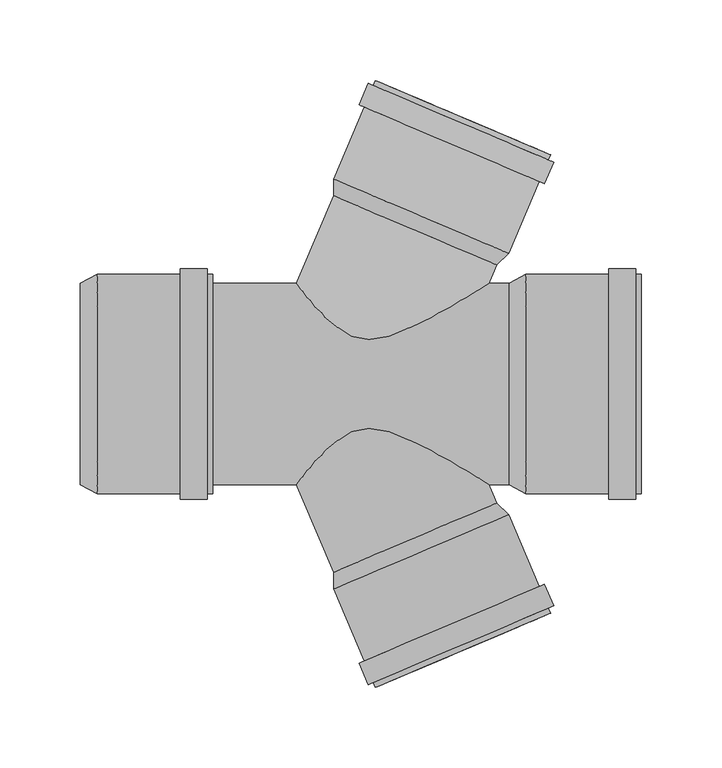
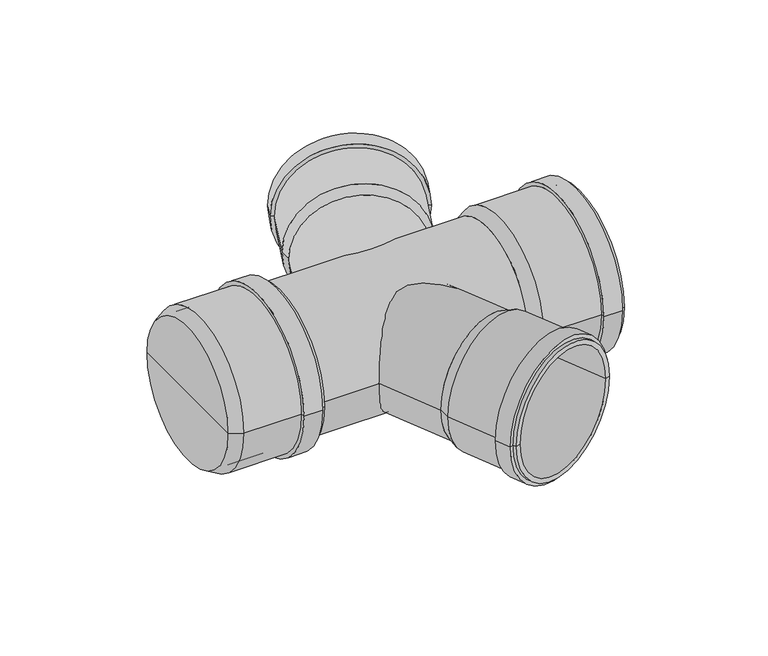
"""IFC4 building model written with IfcOpenShell, lengths in millimetres: pipe fitting geometry, pf_HTDA : pf_HTDA."""

from ifc_helpers import new_model, si_unit, point, frame, origin, origin_2d, place, context, project, spatial, polyline, circle_curve, trimmed, segment, composite_curve, outline, extrude, source, transform, mapped, element, save
from ifc_brep_helpers import plane_surface, cylinder_surface, revolved_surface, advanced_brep


def pipe_fitting_bba1077c(model_context):
    return source(origin(), model_context, "Body", "SolidModel", [
        advanced_brep(
        [(91.146585, 73.9661412, 0.0), (-10.1089489, 116.9465654, 0.0), (-10.1710731, 127.2933591, 0.0), (98.6326006, 81.1089397, 0.0), (40.518818, 95.4563533, 0.0), (124.6162206, 142.3225125, 0.0), (15.812547, 188.5069319, 0.0), (19.5866168, 186.9049342, 0.0), (120.8421507, 143.9245101, 0.0), (123.2877348, 139.192796, 0.0), (14.4840611, 185.3772154, 0.0), (126.4174513, 137.8643101, 0.0), (11.3543446, 186.7057012, 0.0), (120.7518499, 124.5169898, 0.0), (5.6887432, 173.3583808, 0.0), (117.6221334, 125.8454756, 0.0), (8.8184598, 172.029895, 0.0), (94.8585307, 82.7109373, 0.0), (-6.3970032, 125.6913615, 0.0), (44.2307637, 104.2011494, 0.0)],
        [
            (0, 1, circle_curve(frame((40.518818, 95.4563533, 0.0), z_axis=(0.39073112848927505, 0.9205048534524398, 0.0), x_axis=(-0.9205048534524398, 0.39073112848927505, 0.0)), 55.0)),
            (1, 2),
            (2, 3, circle_curve(frame((44.2307637, 104.2011494, 0.0), z_axis=(-0.39073112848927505, -0.9205048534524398, 0.0), x_axis=(-0.9205048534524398, 0.39073112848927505, 0.0)), 59.1)),
            (3, 0),
            (1, 0, circle_curve(frame((40.518818, 95.4563533, 0.0), z_axis=(0.39073112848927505, 0.9205048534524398, 0.0), x_axis=(-0.9205048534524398, 0.39073112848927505, 0.0)), 55.0)),
            (3, 2, circle_curve(frame((44.2307637, 104.2011494, 0.0), z_axis=(-0.39073112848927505, -0.9205048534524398, 0.0), x_axis=(-0.9205048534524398, 0.39073112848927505, 0.0)), 59.1)),
            (4, 1),
            (0, 4),
            (5, 6, circle_curve(frame((70.2143838, 165.4147222, 0.0), z_axis=(0.39073112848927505, 0.9205048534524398, 0.0), x_axis=(-0.9205048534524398, 0.39073112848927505, 0.0)), 59.1)),
            (6, 7),
            (7, 8, circle_curve(frame((70.2143838, 165.4147222, 0.0), z_axis=(-0.39073112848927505, -0.9205048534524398, 0.0), x_axis=(-0.9205048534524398, 0.39073112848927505, 0.0)), 55.0)),
            (8, 5),
            (6, 5, circle_curve(frame((70.2143838, 165.4147222, 0.0), z_axis=(0.39073112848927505, 0.9205048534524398, 0.0), x_axis=(-0.9205048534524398, 0.39073112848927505, 0.0)), 59.1)),
            (8, 7, circle_curve(frame((70.2143838, 165.4147222, 0.0), z_axis=(-0.39073112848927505, -0.9205048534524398, 0.0), x_axis=(-0.9205048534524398, 0.39073112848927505, 0.0)), 55.0)),
            (9, 10, circle_curve(frame((68.885898, 162.2850057, 0.0), z_axis=(0.39073112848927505, 0.9205048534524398, 0.0), x_axis=(-0.9205048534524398, 0.39073112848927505, 0.0)), 59.1)),
            (10, 6),
            (5, 9),
            (10, 9, circle_curve(frame((68.885898, 162.2850057, 0.0), z_axis=(0.39073112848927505, 0.9205048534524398, 0.0), x_axis=(-0.9205048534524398, 0.39073112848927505, 0.0)), 59.1)),
            (11, 12, circle_curve(frame((68.885898, 162.2850057, 0.0), z_axis=(0.39073112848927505, 0.9205048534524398, 0.0), x_axis=(-0.9205048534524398, 0.39073112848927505, 0.0)), 62.5)),
            (12, 10),
            (9, 11),
            (12, 11, circle_curve(frame((68.885898, 162.2850057, 0.0), z_axis=(0.39073112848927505, 0.9205048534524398, 0.0), x_axis=(-0.9205048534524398, 0.39073112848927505, 0.0)), 62.5)),
            (13, 14, circle_curve(frame((63.2202966, 148.9376853, 0.0), z_axis=(0.39073112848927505, 0.9205048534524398, 0.0), x_axis=(-0.9205048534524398, 0.39073112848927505, 0.0)), 62.5)),
            (14, 12),
            (11, 13),
            (14, 13, circle_curve(frame((63.2202966, 148.9376853, 0.0), z_axis=(0.39073112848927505, 0.9205048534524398, 0.0), x_axis=(-0.9205048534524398, 0.39073112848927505, 0.0)), 62.5)),
            (15, 16, circle_curve(frame((63.2202966, 148.9376853, 0.0), z_axis=(0.39073112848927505, 0.9205048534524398, 0.0), x_axis=(-0.9205048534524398, 0.39073112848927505, 0.0)), 59.1)),
            (16, 14),
            (13, 15),
            (16, 15, circle_curve(frame((63.2202966, 148.9376853, 0.0), z_axis=(0.39073112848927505, 0.9205048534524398, 0.0), x_axis=(-0.9205048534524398, 0.39073112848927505, 0.0)), 59.1)),
            (2, 16),
            (15, 3),
            (17, 18, circle_curve(frame((44.2307637, 104.2011494, 0.0), z_axis=(0.39073112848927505, 0.9205048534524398, 0.0), x_axis=(-0.9205048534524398, 0.39073112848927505, 0.0)), 55.0)),
            (18, 19),
            (19, 17),
            (18, 17, circle_curve(frame((44.2307637, 104.2011494, 0.0), z_axis=(0.39073112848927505, 0.9205048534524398, 0.0), x_axis=(-0.9205048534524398, 0.39073112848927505, 0.0)), 55.0)),
            (7, 18),
            (17, 8),
        ],
        [
            revolved_surface(polyline([(-10.1710731, 127.2933591, 0.0), (-10.1089489, 116.9465654, 0.0)]), (40.518818, 95.4563533, 0.0), (-0.39073112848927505, -0.9205048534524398, 0.0)),
            plane_surface(frame((40.518818, 95.4563533, 0.0), z_axis=(-0.39073112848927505, -0.9205048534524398, 0.0), x_axis=(-0.9205048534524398, 0.39073112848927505, 0.0))),
            plane_surface(frame((70.2143838, 165.4147222, 0.0), z_axis=(0.39073112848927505, 0.9205048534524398, 0.0), x_axis=(-0.9205048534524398, 0.39073112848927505, 0.0))),
            cylinder_surface(frame((40.518818, 95.4563533, 0.0), z_axis=(-0.39073112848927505, -0.9205048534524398, 0.0), x_axis=(-0.9205048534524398, 0.39073112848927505, 0.0)), 59.1),
            plane_surface(frame((68.885898, 162.2850057, 0.0), z_axis=(0.39073112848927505, 0.9205048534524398, 0.0), x_axis=(-0.9205048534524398, 0.39073112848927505, 0.0))),
            cylinder_surface(frame((40.518818, 95.4563533, 0.0), z_axis=(-0.39073112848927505, -0.9205048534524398, 0.0), x_axis=(-0.9205048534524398, 0.39073112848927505, 0.0)), 62.5),
            plane_surface(frame((63.2202966, 148.9376853, 0.0), z_axis=(-0.39073112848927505, -0.9205048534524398, 0.0), x_axis=(-0.9205048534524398, 0.39073112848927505, 0.0))),
            plane_surface(frame((44.2307637, 104.2011494, 0.0), z_axis=(0.39073112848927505, 0.9205048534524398, 0.0), x_axis=(-0.9205048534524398, 0.39073112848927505, 0.0))),
            revolved_surface(polyline([(-6.397003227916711, 125.69136145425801, 0.0), (19.586616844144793, 186.90493427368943, 0.0)]), (40.518818, 95.4563533, 0.0), (-0.39073112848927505, -0.9205048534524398, 0.0)),
        ],
        [
            (0, [[1, 2, 3, 4]]),
            (0, [[5, -4, 6, -2]]),
            (1, [[7, -1, 8]]),
            (1, [[-8, -5, -7]]),
            (2, [[9, 10, 11, 12]]),
            (2, [[13, -12, 14, -10]]),
            (3, [[15, 16, -9, 17]]),
            (3, [[18, -17, -13, -16]]),
            (4, [[19, 20, -15, 21]]),
            (4, [[22, -21, -18, -20]]),
            (5, [[23, 24, -19, 25]]),
            (5, [[26, -25, -22, -24]]),
            (6, [[27, 28, -23, 29]]),
            (6, [[30, -29, -26, -28]]),
            (3, [[-3, 31, -27, 32]]),
            (3, [[-6, -32, -30, -31]]),
            (7, [[33, 34, 35]]),
            (7, [[36, -35, -34]]),
            (8, [[-11, 37, -33, 38]]),
            (8, [[-14, -38, -36, -37]]),
        ],
    ),
        advanced_brep(
        [(-10.1089489, -116.9465654, 0.0), (91.146585, -73.9661412, 0.0), (98.6326006, -81.1089397, 0.0), (-10.1710731, -127.2933591, 0.0), (40.518818, -95.4563533, 0.0), (15.812547, -188.5069319, 0.0), (124.6162206, -142.3225125, 0.0), (120.8421507, -143.9245101, 0.0), (19.5866168, -186.9049342, 0.0), (14.4840611, -185.3772154, 0.0), (123.2877348, -139.192796, 0.0), (11.3543446, -186.7057012, 0.0), (126.4174513, -137.8643101, 0.0), (5.6887432, -173.3583808, 0.0), (120.7518499, -124.5169898, 0.0), (8.8184598, -172.029895, 0.0), (117.6221334, -125.8454756, 0.0), (-6.3970032, -125.6913615, 0.0), (94.8585307, -82.7109373, 0.0), (44.2307637, -104.2011494, 0.0)],
        [
            (0, 1, circle_curve(frame((40.518818, -95.4563533, 0.0), z_axis=(0.3907311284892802, -0.9205048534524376, 0.0), x_axis=(0.9205048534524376, 0.3907311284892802, 0.0)), 55.0)),
            (1, 2),
            (2, 3, circle_curve(frame((44.2307637, -104.2011494, 0.0), z_axis=(-0.3907311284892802, 0.9205048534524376, 0.0), x_axis=(0.9205048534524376, 0.3907311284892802, 0.0)), 59.1)),
            (3, 0),
            (1, 0, circle_curve(frame((40.518818, -95.4563533, 0.0), z_axis=(0.3907311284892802, -0.9205048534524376, 0.0), x_axis=(0.9205048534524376, 0.3907311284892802, 0.0)), 55.0)),
            (3, 2, circle_curve(frame((44.2307637, -104.2011494, 0.0), z_axis=(-0.3907311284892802, 0.9205048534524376, 0.0), x_axis=(0.9205048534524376, 0.3907311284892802, 0.0)), 59.1)),
            (4, 1),
            (0, 4),
            (5, 6, circle_curve(frame((70.2143838, -165.4147222, 0.0), z_axis=(0.3907311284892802, -0.9205048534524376, 0.0), x_axis=(0.9205048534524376, 0.3907311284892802, 0.0)), 59.1)),
            (6, 7),
            (7, 8, circle_curve(frame((70.2143838, -165.4147222, 0.0), z_axis=(-0.3907311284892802, 0.9205048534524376, 0.0), x_axis=(0.9205048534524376, 0.3907311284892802, 0.0)), 55.0)),
            (8, 5),
            (6, 5, circle_curve(frame((70.2143838, -165.4147222, 0.0), z_axis=(0.3907311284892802, -0.9205048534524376, 0.0), x_axis=(0.9205048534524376, 0.3907311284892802, 0.0)), 59.1)),
            (8, 7, circle_curve(frame((70.2143838, -165.4147222, 0.0), z_axis=(-0.3907311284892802, 0.9205048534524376, 0.0), x_axis=(0.9205048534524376, 0.3907311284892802, 0.0)), 55.0)),
            (9, 10, circle_curve(frame((68.885898, -162.2850057, 0.0), z_axis=(0.3907311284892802, -0.9205048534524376, 0.0), x_axis=(0.9205048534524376, 0.3907311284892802, 0.0)), 59.1)),
            (10, 6),
            (5, 9),
            (10, 9, circle_curve(frame((68.885898, -162.2850057, 0.0), z_axis=(0.3907311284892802, -0.9205048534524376, 0.0), x_axis=(0.9205048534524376, 0.3907311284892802, 0.0)), 59.1)),
            (11, 12, circle_curve(frame((68.885898, -162.2850057, 0.0), z_axis=(0.3907311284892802, -0.9205048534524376, 0.0), x_axis=(0.9205048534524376, 0.3907311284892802, 0.0)), 62.5)),
            (12, 10),
            (9, 11),
            (12, 11, circle_curve(frame((68.885898, -162.2850057, 0.0), z_axis=(0.3907311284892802, -0.9205048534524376, 0.0), x_axis=(0.9205048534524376, 0.3907311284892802, 0.0)), 62.5)),
            (13, 14, circle_curve(frame((63.2202966, -148.9376853, 0.0), z_axis=(0.3907311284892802, -0.9205048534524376, 0.0), x_axis=(0.9205048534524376, 0.3907311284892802, 0.0)), 62.5)),
            (14, 12),
            (11, 13),
            (14, 13, circle_curve(frame((63.2202966, -148.9376853, 0.0), z_axis=(0.3907311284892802, -0.9205048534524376, 0.0), x_axis=(0.9205048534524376, 0.3907311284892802, 0.0)), 62.5)),
            (15, 16, circle_curve(frame((63.2202966, -148.9376853, 0.0), z_axis=(0.3907311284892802, -0.9205048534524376, 0.0), x_axis=(0.9205048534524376, 0.3907311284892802, 0.0)), 59.1)),
            (16, 14),
            (13, 15),
            (16, 15, circle_curve(frame((63.2202966, -148.9376853, 0.0), z_axis=(0.3907311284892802, -0.9205048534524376, 0.0), x_axis=(0.9205048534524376, 0.3907311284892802, 0.0)), 59.1)),
            (2, 16),
            (15, 3),
            (17, 18, circle_curve(frame((44.2307637, -104.2011494, 0.0), z_axis=(0.3907311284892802, -0.9205048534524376, 0.0), x_axis=(0.9205048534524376, 0.3907311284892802, 0.0)), 55.0)),
            (18, 19),
            (19, 17),
            (18, 17, circle_curve(frame((44.2307637, -104.2011494, 0.0), z_axis=(0.3907311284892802, -0.9205048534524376, 0.0), x_axis=(0.9205048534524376, 0.3907311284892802, 0.0)), 55.0)),
            (7, 18),
            (17, 8),
        ],
        [
            revolved_surface(polyline([(98.6326006, -81.1089397, 0.0), (91.146585, -73.9661412, 0.0)]), (40.518818, -95.4563533, 0.0), (-0.3907311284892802, 0.9205048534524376, 0.0)),
            plane_surface(frame((40.518818, -95.4563533, 0.0), z_axis=(-0.3907311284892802, 0.9205048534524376, 0.0), x_axis=(0.9205048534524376, 0.3907311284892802, 0.0))),
            plane_surface(frame((70.2143838, -165.4147222, 0.0), z_axis=(0.3907311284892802, -0.9205048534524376, 0.0), x_axis=(0.9205048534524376, 0.3907311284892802, 0.0))),
            cylinder_surface(frame((40.518818, -95.4563533, 0.0), z_axis=(-0.3907311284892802, 0.9205048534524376, 0.0), x_axis=(0.9205048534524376, 0.3907311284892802, 0.0)), 59.1),
            plane_surface(frame((68.885898, -162.2850057, 0.0), z_axis=(0.3907311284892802, -0.9205048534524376, 0.0), x_axis=(0.9205048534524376, 0.3907311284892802, 0.0))),
            cylinder_surface(frame((40.518818, -95.4563533, 0.0), z_axis=(-0.3907311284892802, 0.9205048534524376, 0.0), x_axis=(0.9205048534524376, 0.3907311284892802, 0.0)), 62.5),
            plane_surface(frame((63.2202966, -148.9376853, 0.0), z_axis=(-0.3907311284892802, 0.9205048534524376, 0.0), x_axis=(0.9205048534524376, 0.3907311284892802, 0.0))),
            plane_surface(frame((44.2307637, -104.2011494, 0.0), z_axis=(0.3907311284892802, -0.9205048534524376, 0.0), x_axis=(0.9205048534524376, 0.3907311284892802, 0.0))),
            revolved_surface(polyline([(94.85853065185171, -82.71093732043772, 0.0), (120.84215072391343, -143.9245101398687, 0.0)]), (40.518818, -95.4563533, 0.0), (-0.3907311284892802, 0.9205048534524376, 0.0)),
        ],
        [
            (0, [[1, 2, 3, 4]]),
            (0, [[5, -4, 6, -2]]),
            (1, [[7, -1, 8]]),
            (1, [[-8, -5, -7]]),
            (2, [[9, 10, 11, 12]]),
            (2, [[13, -12, 14, -10]]),
            (3, [[15, 16, -9, 17]]),
            (3, [[18, -17, -13, -16]]),
            (4, [[19, 20, -15, 21]]),
            (4, [[22, -21, -18, -20]]),
            (5, [[23, 24, -19, 25]]),
            (5, [[26, -25, -22, -24]]),
            (6, [[27, 28, -23, 29]]),
            (6, [[30, -29, -26, -28]]),
            (3, [[-3, 31, -27, 32]]),
            (3, [[-6, -32, -30, -31]]),
            (7, [[33, 34, 35]]),
            (7, [[36, -35, -34]]),
            (8, [[-11, 37, -33, 38]]),
            (8, [[-14, -38, -36, -37]]),
        ],
    ),
        advanced_brep(
        [(98.8, -62.5, 0.0), (98.8, 62.5, 0.0), (109.3, 68.1, 0.0), (109.3, -68.1, 0.0), (98.8, 0.0, 0.0), (180.8, -68.1, 0.0), (180.8, 68.1, 0.0), (180.8, 62.5, 0.0), (180.8, -62.5, 0.0), (177.4, -68.1, 0.0), (177.4, 68.1, 0.0), (177.4, -71.5, 0.0), (177.4, 71.5, 0.0), (160.8, -71.5, 0.0), (160.8, 71.5, 0.0), (160.8, -68.1, 0.0), (160.8, 68.1, 0.0), (109.3, -62.5, 0.0), (109.3, 62.5, 0.0), (109.3, 0.0, 0.0)],
        [
            (0, 1, circle_curve(frame((98.8, 0.0, 0.0), z_axis=(1.0, 0.0, 0.0), x_axis=(0.0, 1.0, 0.0)), 62.5)),
            (1, 2),
            (2, 3, circle_curve(frame((109.3, 0.0, 0.0), z_axis=(-1.0, 0.0, 0.0), x_axis=(0.0, 1.0, 0.0)), 68.1)),
            (3, 0),
            (1, 0, circle_curve(frame((98.8, 0.0, 0.0), z_axis=(1.0, 0.0, 0.0), x_axis=(0.0, 1.0, 0.0)), 62.5)),
            (3, 2, circle_curve(frame((109.3, 0.0, 0.0), z_axis=(-1.0, 0.0, 0.0), x_axis=(0.0, 1.0, 0.0)), 68.1)),
            (4, 1),
            (0, 4),
            (5, 6, circle_curve(frame((180.8, 0.0, 0.0), z_axis=(1.0, 0.0, 0.0), x_axis=(0.0, 1.0, 0.0)), 68.1)),
            (6, 7),
            (7, 8, circle_curve(frame((180.8, 0.0, 0.0), z_axis=(-1.0, 0.0, 0.0), x_axis=(0.0, 1.0, 0.0)), 62.5)),
            (8, 5),
            (6, 5, circle_curve(frame((180.8, 0.0, 0.0), z_axis=(1.0, 0.0, 0.0), x_axis=(0.0, 1.0, 0.0)), 68.1)),
            (8, 7, circle_curve(frame((180.8, 0.0, 0.0), z_axis=(-1.0, 0.0, 0.0), x_axis=(0.0, 1.0, 0.0)), 62.5)),
            (9, 10, circle_curve(frame((177.4, 0.0, 0.0), z_axis=(1.0, 0.0, 0.0), x_axis=(0.0, 1.0, 0.0)), 68.1)),
            (10, 6),
            (5, 9),
            (10, 9, circle_curve(frame((177.4, 0.0, 0.0), z_axis=(1.0, 0.0, 0.0), x_axis=(0.0, 1.0, 0.0)), 68.1)),
            (11, 12, circle_curve(frame((177.4, 0.0, 0.0), z_axis=(1.0, 0.0, 0.0), x_axis=(0.0, 1.0, 0.0)), 71.5)),
            (12, 10),
            (9, 11),
            (12, 11, circle_curve(frame((177.4, 0.0, 0.0), z_axis=(1.0, 0.0, 0.0), x_axis=(0.0, 1.0, 0.0)), 71.5)),
            (13, 14, circle_curve(frame((160.8, 0.0, 0.0), z_axis=(1.0, 0.0, 0.0), x_axis=(0.0, 1.0, 0.0)), 71.5)),
            (14, 12),
            (11, 13),
            (14, 13, circle_curve(frame((160.8, 0.0, 0.0), z_axis=(1.0, 0.0, 0.0), x_axis=(0.0, 1.0, 0.0)), 71.5)),
            (15, 16, circle_curve(frame((160.8, 0.0, 0.0), z_axis=(1.0, 0.0, 0.0), x_axis=(0.0, 1.0, 0.0)), 68.1)),
            (16, 14),
            (13, 15),
            (16, 15, circle_curve(frame((160.8, 0.0, 0.0), z_axis=(1.0, 0.0, 0.0), x_axis=(0.0, 1.0, 0.0)), 68.1)),
            (2, 16),
            (15, 3),
            (17, 18, circle_curve(frame((109.3, 0.0, 0.0), z_axis=(1.0, 0.0, 0.0), x_axis=(0.0, 1.0, 0.0)), 62.5)),
            (18, 19),
            (19, 17),
            (18, 17, circle_curve(frame((109.3, 0.0, 0.0), z_axis=(1.0, 0.0, 0.0), x_axis=(0.0, 1.0, 0.0)), 62.5)),
            (7, 18),
            (17, 8),
        ],
        [
            revolved_surface(polyline([(109.3, 68.1, 0.0), (98.8, 62.5, 0.0)]), (98.8, 0.0, 0.0), (-1.0, 0.0, 0.0)),
            plane_surface(frame((98.8, 0.0, 0.0), z_axis=(-1.0, 0.0, 0.0), x_axis=(0.0, 1.0, 0.0))),
            plane_surface(frame((180.8, 0.0, 0.0), z_axis=(1.0, 0.0, 0.0), x_axis=(0.0, 1.0, 0.0))),
            cylinder_surface(frame((98.8, 0.0, 0.0), z_axis=(-1.0, 0.0, 0.0), x_axis=(0.0, 1.0, 0.0)), 68.1),
            plane_surface(frame((177.4, 0.0, 0.0), z_axis=(1.0, 0.0, 0.0), x_axis=(0.0, 1.0, 0.0))),
            cylinder_surface(frame((98.8, 0.0, 0.0), z_axis=(-1.0, 0.0, 0.0), x_axis=(0.0, 1.0, 0.0)), 71.5),
            plane_surface(frame((160.8, 0.0, 0.0), z_axis=(-1.0, 0.0, 0.0), x_axis=(0.0, 1.0, 0.0))),
            plane_surface(frame((109.3, 0.0, 0.0), z_axis=(1.0, 0.0, 0.0), x_axis=(0.0, 1.0, 0.0))),
            revolved_surface(polyline([(109.3, 62.5, 0.0), (180.8, 62.5, 0.0)]), (98.8, 0.0, 0.0), (-1.0, 0.0, 0.0)),
        ],
        [
            (0, [[1, 2, 3, 4]]),
            (0, [[5, -4, 6, -2]]),
            (1, [[7, -1, 8]]),
            (1, [[-8, -5, -7]]),
            (2, [[9, 10, 11, 12]]),
            (2, [[13, -12, 14, -10]]),
            (3, [[15, 16, -9, 17]]),
            (3, [[18, -17, -13, -16]]),
            (4, [[19, 20, -15, 21]]),
            (4, [[22, -21, -18, -20]]),
            (5, [[23, 24, -19, 25]]),
            (5, [[26, -25, -22, -24]]),
            (6, [[27, 28, -23, 29]]),
            (6, [[30, -29, -26, -28]]),
            (3, [[-3, 31, -27, 32]]),
            (3, [[-6, -32, -30, -31]]),
            (7, [[33, 34, 35]]),
            (7, [[36, -35, -34]]),
            (8, [[-11, 37, -33, 38]]),
            (8, [[-14, -38, -36, -37]]),
        ],
    ),
        advanced_brep(
        [(-167.4, -62.5, 0.0), (-167.4, 62.5, 0.0), (-156.9, 68.1, 0.0), (-156.9, -68.1, 0.0), (-167.4, 0.0, 0.0), (-85.4, -68.1, 0.0), (-85.4, 68.1, 0.0), (-85.4, 62.5, 0.0), (-85.4, -62.5, 0.0), (-88.8, -68.1, 0.0), (-88.8, 68.1, 0.0), (-88.8, -71.5, 0.0), (-88.8, 71.5, 0.0), (-105.4, -71.5, 0.0), (-105.4, 71.5, 0.0), (-105.4, -68.1, 0.0), (-105.4, 68.1, 0.0), (-156.9, -62.5, 0.0), (-156.9, 62.5, 0.0), (-156.9, 0.0, 0.0)],
        [
            (0, 1, circle_curve(frame((-167.4, 0.0, 0.0), z_axis=(1.0, 0.0, 0.0), x_axis=(0.0, 1.0, 0.0)), 62.5)),
            (1, 2),
            (2, 3, circle_curve(frame((-156.9, 0.0, 0.0), z_axis=(-1.0, 0.0, 0.0), x_axis=(0.0, 1.0, 0.0)), 68.1)),
            (3, 0),
            (1, 0, circle_curve(frame((-167.4, 0.0, 0.0), z_axis=(1.0, 0.0, 0.0), x_axis=(0.0, 1.0, 0.0)), 62.5)),
            (3, 2, circle_curve(frame((-156.9, 0.0, 0.0), z_axis=(-1.0, 0.0, 0.0), x_axis=(0.0, 1.0, 0.0)), 68.1)),
            (4, 1),
            (0, 4),
            (5, 6, circle_curve(frame((-85.4, 0.0, 0.0), z_axis=(1.0, 0.0, 0.0), x_axis=(0.0, 1.0, 0.0)), 68.1)),
            (6, 7),
            (7, 8, circle_curve(frame((-85.4, 0.0, 0.0), z_axis=(-1.0, 0.0, 0.0), x_axis=(0.0, 1.0, 0.0)), 62.5)),
            (8, 5),
            (6, 5, circle_curve(frame((-85.4, 0.0, 0.0), z_axis=(1.0, 0.0, 0.0), x_axis=(0.0, 1.0, 0.0)), 68.1)),
            (8, 7, circle_curve(frame((-85.4, 0.0, 0.0), z_axis=(-1.0, 0.0, 0.0), x_axis=(0.0, 1.0, 0.0)), 62.5)),
            (9, 10, circle_curve(frame((-88.8, 0.0, 0.0), z_axis=(1.0, 0.0, 0.0), x_axis=(0.0, 1.0, 0.0)), 68.1)),
            (10, 6),
            (5, 9),
            (10, 9, circle_curve(frame((-88.8, 0.0, 0.0), z_axis=(1.0, 0.0, 0.0), x_axis=(0.0, 1.0, 0.0)), 68.1)),
            (11, 12, circle_curve(frame((-88.8, 0.0, 0.0), z_axis=(1.0, 0.0, 0.0), x_axis=(0.0, 1.0, 0.0)), 71.5)),
            (12, 10),
            (9, 11),
            (12, 11, circle_curve(frame((-88.8, 0.0, 0.0), z_axis=(1.0, 0.0, 0.0), x_axis=(0.0, 1.0, 0.0)), 71.5)),
            (13, 14, circle_curve(frame((-105.4, 0.0, 0.0), z_axis=(1.0, 0.0, 0.0), x_axis=(0.0, 1.0, 0.0)), 71.5)),
            (14, 12),
            (11, 13),
            (14, 13, circle_curve(frame((-105.4, 0.0, 0.0), z_axis=(1.0, 0.0, 0.0), x_axis=(0.0, 1.0, 0.0)), 71.5)),
            (15, 16, circle_curve(frame((-105.4, 0.0, 0.0), z_axis=(1.0, 0.0, 0.0), x_axis=(0.0, 1.0, 0.0)), 68.1)),
            (16, 14),
            (13, 15),
            (16, 15, circle_curve(frame((-105.4, 0.0, 0.0), z_axis=(1.0, 0.0, 0.0), x_axis=(0.0, 1.0, 0.0)), 68.1)),
            (2, 16),
            (15, 3),
            (17, 18, circle_curve(frame((-156.9, 0.0, 0.0), z_axis=(1.0, 0.0, 0.0), x_axis=(0.0, 1.0, 0.0)), 62.5)),
            (18, 19),
            (19, 17),
            (18, 17, circle_curve(frame((-156.9, 0.0, 0.0), z_axis=(1.0, 0.0, 0.0), x_axis=(0.0, 1.0, 0.0)), 62.5)),
            (7, 18),
            (17, 8),
        ],
        [
            revolved_surface(polyline([(-156.9, 68.1, 0.0), (-167.4, 62.5, 0.0)]), (-167.4, 0.0, 0.0), (-1.0, 0.0, 0.0)),
            plane_surface(frame((-167.4, 0.0, 0.0), z_axis=(-1.0, 0.0, 0.0), x_axis=(0.0, 1.0, 0.0))),
            plane_surface(frame((-85.4, 0.0, 0.0), z_axis=(1.0, 0.0, 0.0), x_axis=(0.0, 1.0, 0.0))),
            cylinder_surface(frame((-167.4, 0.0, 0.0), z_axis=(-1.0, 0.0, 0.0), x_axis=(0.0, 1.0, 0.0)), 68.1),
            plane_surface(frame((-88.8, 0.0, 0.0), z_axis=(1.0, 0.0, 0.0), x_axis=(0.0, 1.0, 0.0))),
            cylinder_surface(frame((-167.4, 0.0, 0.0), z_axis=(-1.0, 0.0, 0.0), x_axis=(0.0, 1.0, 0.0)), 71.5),
            plane_surface(frame((-105.4, 0.0, 0.0), z_axis=(-1.0, 0.0, 0.0), x_axis=(0.0, 1.0, 0.0))),
            plane_surface(frame((-156.9, 0.0, 0.0), z_axis=(1.0, 0.0, 0.0), x_axis=(0.0, 1.0, 0.0))),
            revolved_surface(polyline([(-156.9, 62.5, 0.0), (-85.4, 62.5, 0.0)]), (-167.4, 0.0, 0.0), (-1.0, 0.0, 0.0)),
        ],
        [
            (0, [[1, 2, 3, 4]]),
            (0, [[5, -4, 6, -2]]),
            (1, [[7, -1, 8]]),
            (1, [[-8, -5, -7]]),
            (2, [[9, 10, 11, 12]]),
            (2, [[13, -12, 14, -10]]),
            (3, [[15, 16, -9, 17]]),
            (3, [[18, -17, -13, -16]]),
            (4, [[19, 20, -15, 21]]),
            (4, [[22, -21, -18, -20]]),
            (5, [[23, 24, -19, 25]]),
            (5, [[26, -25, -22, -24]]),
            (6, [[27, 28, -23, 29]]),
            (6, [[30, -29, -26, -28]]),
            (3, [[-3, 31, -27, 32]]),
            (3, [[-6, -32, -30, -31]]),
            (7, [[33, 34, 35]]),
            (7, [[36, -35, -34]]),
            (8, [[-11, 37, -33, 38]]),
            (8, [[-14, -38, -36, -37]]),
        ],
    ),
        extrude(outline(composite_curve([segment(trimmed(circle_curve(origin_2d(), 55.0), [point((0.0, 55.0))], [point((0.0, -55.0))], False, "CARTESIAN"), True, "CONTINUOUS"), segment(trimmed(circle_curve(origin_2d(), 55.0), [point((0.0, -55.0))], [point((0.0, 55.0))], False, "CARTESIAN"), True, "CONTINUOUS")], self_intersect=False)), frame((0.0, 0.0, 0.0), z_axis=(0.3907311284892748, 0.9205048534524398, 0.0), x_axis=(0.0, 0.0, 1.0)), (0.0, 0.0, 1.0), 103.7),
        extrude(outline(composite_curve([segment(trimmed(circle_curve(origin_2d(), 55.0), [point((0.0, -55.0))], [point((0.0, 55.0000001))], False, "CARTESIAN"), True, "CONTINUOUS"), segment(trimmed(circle_curve(origin_2d(), 55.0), [point((0.0, 55.0000001))], [point((0.0, -55.0))], False, "CARTESIAN"), True, "CONTINUOUS")], self_intersect=False)), frame((40.518818, -95.4563533, 0.0), z_axis=(-0.39073112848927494, 0.9205048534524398, 0.0), x_axis=(0.0, 0.0, 1.0)), (0.0, 0.0, 1.0), 103.7),
        extrude(outline(composite_curve([segment(trimmed(circle_curve(origin_2d(), 62.5), [point((-62.5, 0.0))], [point((62.5, 0.0))], False, "CARTESIAN"), True, "CONTINUOUS"), segment(trimmed(circle_curve(origin_2d(), 62.5), [point((62.5, 0.0))], [point((-62.5, 0.0))], False, "CARTESIAN"), True, "CONTINUOUS")], self_intersect=False)), frame((-156.9, 0.0, 0.0), z_axis=(1.0, 0.0, 0.0), x_axis=(0.0, 1.0, 0.0)), (0.0, 0.0, 1.0), 255.7),
    ])


if __name__ == "__main__":
    model = new_model("IFC4")
    model_context = context("Model", 3, world=origin())
    ifc_project = project(units=[si_unit("LENGTHUNIT", "METRE", prefix="MILLI")], contexts=[model_context])
    site = spatial("IfcSite", under=ifc_project)
    building = spatial("IfcBuilding", under=site)
    placement = place(None, origin())
    pipe_fitting_shape = pipe_fitting_bba1077c(model_context)
    element("IfcPipeFitting", 1, ObjectType="pf_HTDA : pf_HTDA", at=placement, inside=building, context=model_context, shape_type="MappedRepresentation", body=[
        mapped(pipe_fitting_shape, transform((0.0, 0.0, 0.0), x_axis=(1.0, 0.0, 0.0), y_axis=(0.0, 1.0, 0.0), z_axis=(0.0, 0.0, 1.0))),
    ])
    save(model, "model.ifc")
